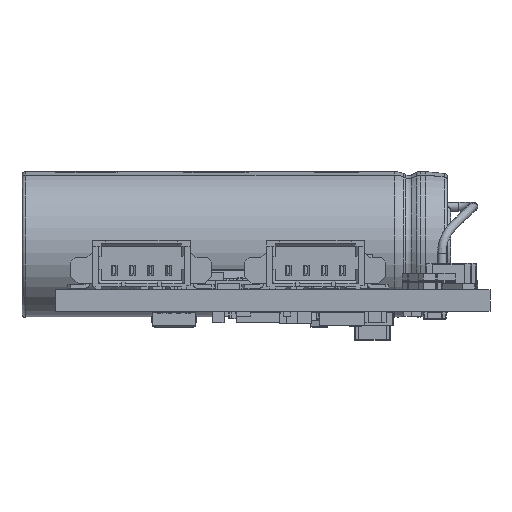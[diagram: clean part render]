
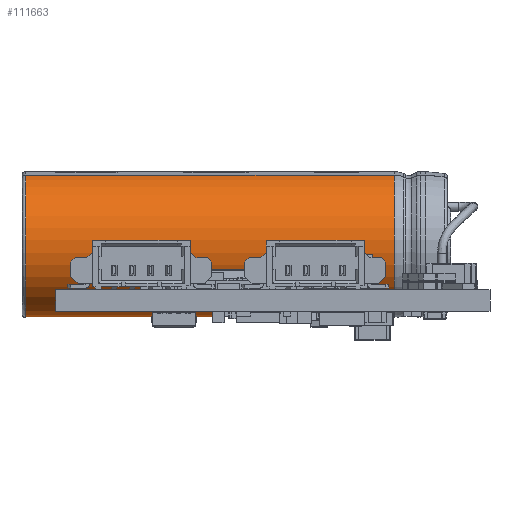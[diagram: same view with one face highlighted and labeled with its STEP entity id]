
A CAD part, front view. The second image highlights one B-rep face of the part: STEP entity #111663.
In plain terms, the highlighted cylindrical face has radius 5.05 mm (diameter 10.1 mm), a partial arc.
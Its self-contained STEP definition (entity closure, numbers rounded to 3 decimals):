
#110644 = VERTEX_POINT('',#110645);
#110645 = CARTESIAN_POINT('',(-28.6,-1.519,
    2.616));
#110652 = EDGE_CURVE('',#110653,#110644,#110655,.T.);
#110653 = VERTEX_POINT('',#110654);
#110654 = CARTESIAN_POINT('',(-3.12,-1.519,2.616
    ));
#110655 = LINE('',#110656,#110657);
#110656 = CARTESIAN_POINT('',(-15.86,-1.519,
    2.616));
#110657 = VECTOR('',#110658,1.);
#110658 = DIRECTION('',(-1.,0.,0.));
#111398 = VERTEX_POINT('',#111399);
#111399 = CARTESIAN_POINT('',(-3.12,1.519,2.616)
  );
#111406 = EDGE_CURVE('',#111407,#111398,#111409,.T.);
#111407 = VERTEX_POINT('',#111408);
#111408 = CARTESIAN_POINT('',(-28.6,1.519,2.616
    ));
#111409 = LINE('',#111410,#111411);
#111410 = CARTESIAN_POINT('',(-15.86,1.519,2.616
    ));
#111411 = VECTOR('',#111412,1.);
#111412 = DIRECTION('',(1.,0.,0.));
#111650 = EDGE_CURVE('',#111398,#110653,#111651,.T.);
#111651 = CIRCLE('',#111652,5.05);
#111652 = AXIS2_PLACEMENT_3D('',#111653,#111654,#111655);
#111653 = CARTESIAN_POINT('',(-3.12,0.,-2.2));
#111654 = DIRECTION('',(-1.,0.,0.));
#111655 = DIRECTION('',(0.,0.,1.));
#111663 = ADVANCED_FACE('',(#111664),#111676,.T.);
#111664 = FACE_BOUND('',#111665,.T.);
#111665 = EDGE_LOOP('',(#111666,#111667,#111674,#111675));
#111666 = ORIENTED_EDGE('',*,*,#110652,.T.);
#111667 = ORIENTED_EDGE('',*,*,#111668,.F.);
#111668 = EDGE_CURVE('',#111407,#110644,#111669,.T.);
#111669 = CIRCLE('',#111670,5.05);
#111670 = AXIS2_PLACEMENT_3D('',#111671,#111672,#111673);
#111671 = CARTESIAN_POINT('',(-28.6,0.,-2.2));
#111672 = DIRECTION('',(-1.,0.,0.));
#111673 = DIRECTION('',(0.,0.,1.));
#111674 = ORIENTED_EDGE('',*,*,#111406,.T.);
#111675 = ORIENTED_EDGE('',*,*,#111650,.T.);
#111676 = CYLINDRICAL_SURFACE('',#111677,5.05);
#111677 = AXIS2_PLACEMENT_3D('',#111678,#111679,#111680);
#111678 = CARTESIAN_POINT('',(-15.86,0.,-2.2));
#111679 = DIRECTION('',(-1.,0.,0.));
#111680 = DIRECTION('',(0.,0.,-1.));
